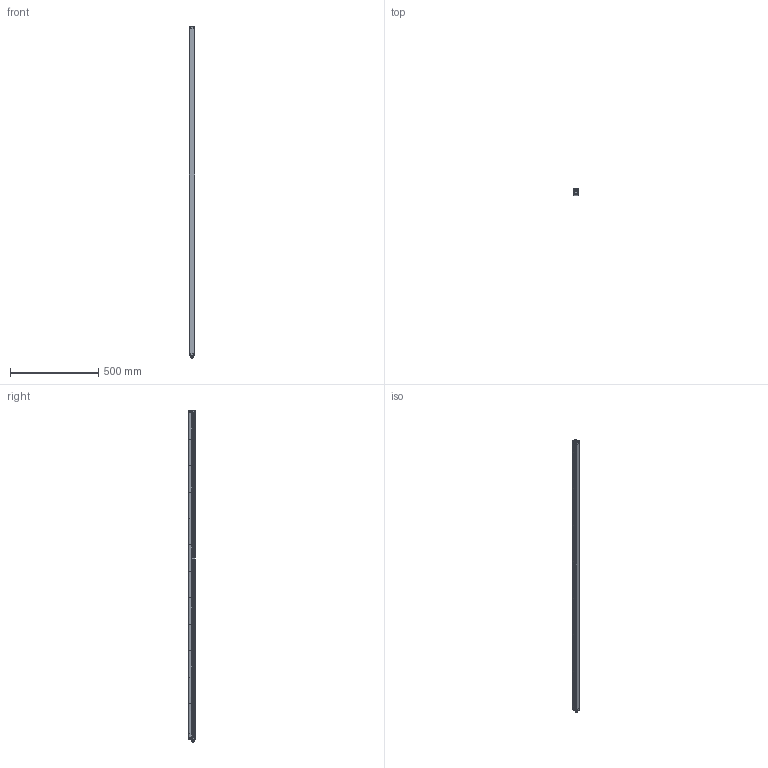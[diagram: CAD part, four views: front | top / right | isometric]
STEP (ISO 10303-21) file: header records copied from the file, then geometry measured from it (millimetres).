
FILE_DESCRIPTION(/* description */ (''),/* implementation_level */ '2;1');
FILE_NAME(/* name */ 'DSD-0168.stp',/* time_stamp */ '2020-07-16T12:05:54+02:00',/* author */ (''),/* organization */ (''),/* preprocessor_version */ 'ST-DEVELOPER v16.7',/* originating_system */ 'SIEMENS PLM Software NX 12.0',/* authorisation */ '');
FILE_SCHEMA (('AUTOMOTIVE_DESIGN { 1 0 10303 214 3 1 1 1 }'));
Products named in the file (1): AP025820_00_1-DSD-0168
Bounding box: 32.3 x 36.9 x 1883.34 mm (x, y, z)
Volume: 1900780.2 mm3; surface area: 436610.8 mm2
Topology: 12 solids, 716 shells, 1653 faces, 5164 edges, 4051 vertices
Faces by surface type: cylinder 608, bspline 577, plane 378, sphere 53, cone 29, torus 8
Full cylindrical faces by diameter (mm): 1 x10, 1.5 x6, 2 x6, 2.05 x4, 2.5 x12, 2.7 x10, 2.9 x6, 3 x12, 3.4 x6, 3.6 x12, 4.7 x2, 5 x10, 5.3 x2, 7.5 x1, 8 x1, 8.2 x1, 9.3 x1, 9.5 x1, 9.55 x1, 10.5 x1, 11 x2, 12 x12, 13.97 x1, 14.3 x1, 16 x2
Entity records: 84851 total; most frequent: CARTESIAN_POINT 35926, ORIENTED_EDGE 7026, DIRECTION 5979, EDGE_CURVE 4939, VERTEX_POINT 4040, AXIS2_PLACEMENT_3D 2332, EDGE_LOOP 1883, PRESENTATION_STYLE_ASSIGNMENT 1654
